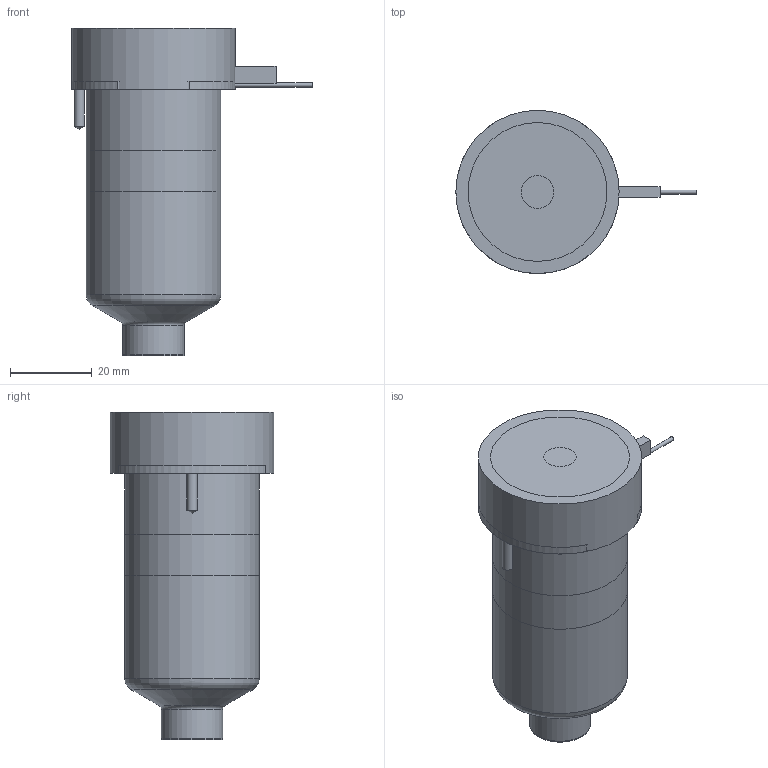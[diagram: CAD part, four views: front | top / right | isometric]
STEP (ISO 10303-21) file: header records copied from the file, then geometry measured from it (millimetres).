
FILE_DESCRIPTION(/* description */ (''),/* implementation_level */ '2;1');
FILE_NAME(/* name */ 'BXTVBE-BXIVBE-BXOVBE19065_250C_b',/* time_stamp */ '2007-01-18T10:02:44+13:00',/* author */ (''),/* organization */ (''),/* preprocessor_version */ 'ST-DEVELOPER v9',/* originating_system */ 'UGS - NX 4.0',/* authorisation */ '');
FILE_SCHEMA (('CONFIG_CONTROL_DESIGN'));
Length unit declared in the file: millimetre
Products named in the file (1): BXTVBE-BXIVBE-BXOVBE19065_250C_b
Bounding box: 58.85 x 40 x 80.21 mm (x, y, z)
Volume: 128505.6 mm3; surface area: 23625.7 mm2
Topology: 6 solids, 6 shells, 75 faces, 148 edges, 95 vertices
Faces by surface type: plane 35, cylinder 23, cone 9, torus 7, bspline 1
Full cylindrical faces by diameter (mm): 1 x3, 2.5 x2, 3 x1, 8 x1, 14.61 x1, 15.01 x2, 18.3 x1, 28.6 x1, 33 x2, 40 x1
Entity records: 1880 total; most frequent: CARTESIAN_POINT 379, DIRECTION 314, ORIENTED_EDGE 222, AXIS2_PLACEMENT_3D 138, EDGE_LOOP 114, EDGE_CURVE 111, VERTEX_POINT 88, ADVANCED_FACE 75
